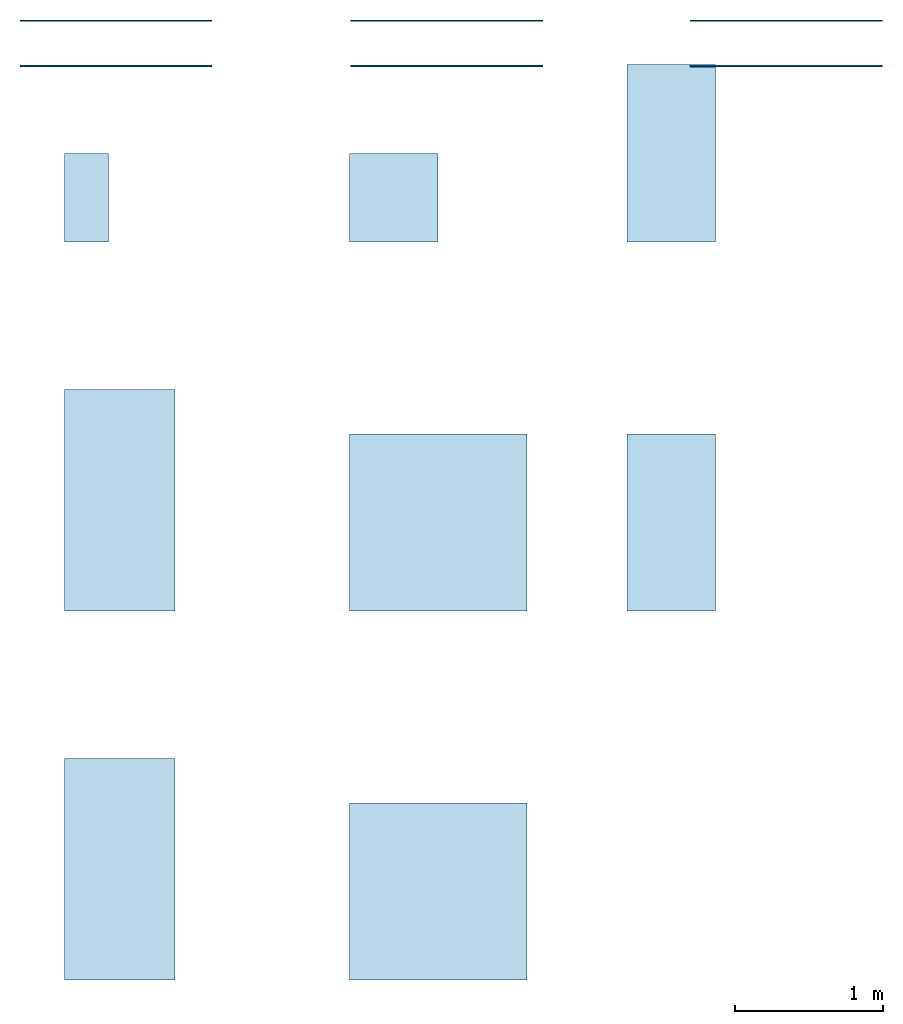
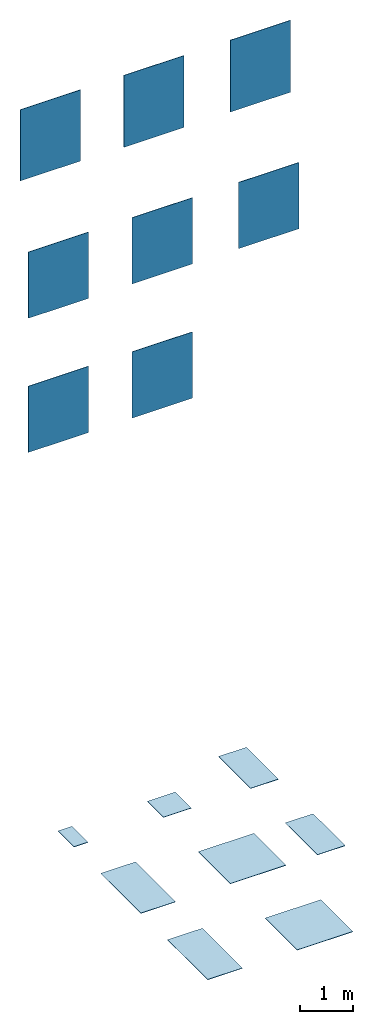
# One storey: 8 slabs, 8 walls.
"""IFC2X3 building model written with IfcOpenShell, lengths in millimetres."""

from ifc_helpers import new_model, entity, si_unit, converted_unit, derived_unit, direction, frame, frame_2d, origin, origin_2d_with_axis, place, context, subcontext, project, spatial, rectangle, extrude, material, layer, layer_set, layer_usage, type_object, element, save


model = new_model("IFC2X3")

# Units and contexts
model_context = context("Model", 3, precision=0.01, world=origin(), true_north=direction((6.123031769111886e-17, 1.0)))
body_context = subcontext(model_context, "Body", "Model", "MODEL_VIEW")
ifc_project = project(units=[si_unit("LENGTHUNIT", "METRE", prefix="MILLI"), si_unit("AREAUNIT", "SQUARE_METRE"), si_unit("VOLUMEUNIT", "CUBIC_METRE"), converted_unit("PLANEANGLEUNIT", "DEGREE", entity("IfcPlaneAngleMeasure", 0.017453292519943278), si_unit("PLANEANGLEUNIT", "RADIAN"), dimensions=[0, 0, 0, 0, 0, 0, 0]), si_unit("MASSUNIT", "GRAM", prefix="KILO"), derived_unit("MASSDENSITYUNIT", [(si_unit("MASSUNIT", "GRAM", prefix="KILO"), 1), (si_unit("LENGTHUNIT", "METRE"), -3)]), derived_unit("IONCONCENTRATIONUNIT", [(si_unit("MASSUNIT", "GRAM", prefix="KILO"), 1), (si_unit("LENGTHUNIT", "METRE"), -3)]), derived_unit("MOMENTOFINERTIAUNIT", [(si_unit("LENGTHUNIT", "METRE"), 4)]), si_unit("TIMEUNIT", "SECOND"), si_unit("FREQUENCYUNIT", "HERTZ"), si_unit("THERMODYNAMICTEMPERATUREUNIT", "DEGREE_CELSIUS"), derived_unit("THERMALTRANSMITTANCEUNIT", [(si_unit("MASSUNIT", "GRAM", prefix="KILO"), 1), (si_unit("THERMODYNAMICTEMPERATUREUNIT", "KELVIN"), -1), (si_unit("TIMEUNIT", "SECOND"), -3)]), derived_unit("THERMALCONDUCTANCEUNIT", [(si_unit("MASSUNIT", "GRAM", prefix="KILO"), 1), (si_unit("THERMODYNAMICTEMPERATUREUNIT", "KELVIN"), -1), (si_unit("TIMEUNIT", "SECOND"), -3), (si_unit("LENGTHUNIT", "METRE"), 1)]), derived_unit("VOLUMETRICFLOWRATEUNIT", [(si_unit("LENGTHUNIT", "METRE", prefix="DECI"), 3), (si_unit("TIMEUNIT", "SECOND"), -1)]), derived_unit("MASSFLOWRATEUNIT", [(si_unit("MASSUNIT", "GRAM", prefix="KILO"), 1), (si_unit("TIMEUNIT", "SECOND"), -1)]), derived_unit("ROTATIONALFREQUENCYUNIT", [(si_unit("TIMEUNIT", "SECOND"), -1)]), si_unit("ELECTRICCURRENTUNIT", "AMPERE"), si_unit("ELECTRICVOLTAGEUNIT", "VOLT"), si_unit("POWERUNIT", "WATT"), si_unit("FORCEUNIT", "NEWTON", prefix="KILO"), si_unit("ILLUMINANCEUNIT", "LUX"), si_unit("LUMINOUSFLUXUNIT", "LUMEN"), si_unit("LUMINOUSINTENSITYUNIT", "CANDELA"), si_unit("ENERGYUNIT", "JOULE"), derived_unit("USERDEFINED", [(si_unit("MASSUNIT", "GRAM", prefix="KILO"), -1), (si_unit("LENGTHUNIT", "METRE"), -2), (si_unit("TIMEUNIT", "SECOND"), 3), (si_unit("LUMINOUSFLUXUNIT", "LUMEN"), 1)]), derived_unit("USERDEFINED", [(si_unit("MASSUNIT", "GRAM", prefix="KILO"), 1), (si_unit("TIMEUNIT", "SECOND"), -3), (si_unit("LENGTHUNIT", "METRE"), 3), (si_unit("ELECTRICCURRENTUNIT", "AMPERE"), -2)]), derived_unit("SOUNDPOWERUNIT", [(si_unit("MASSUNIT", "GRAM", prefix="KILO"), 1), (si_unit("TIMEUNIT", "SECOND"), -3), (si_unit("LENGTHUNIT", "METRE"), 2)]), derived_unit("SOUNDPRESSUREUNIT", [(si_unit("MASSUNIT", "GRAM", prefix="KILO"), 1), (si_unit("LENGTHUNIT", "METRE"), -1), (si_unit("TIMEUNIT", "SECOND"), -2)]), derived_unit("LINEARVELOCITYUNIT", [(si_unit("LENGTHUNIT", "METRE"), 1), (si_unit("TIMEUNIT", "SECOND"), -1)]), si_unit("PRESSUREUNIT", "PASCAL"), derived_unit("USERDEFINED", [(si_unit("MASSUNIT", "GRAM", prefix="KILO"), 1), (si_unit("LENGTHUNIT", "METRE"), -2), (si_unit("TIMEUNIT", "SECOND"), -2)]), derived_unit("LINEARFORCEUNIT", [(si_unit("MASSUNIT", "GRAM", prefix="KILO"), 1), (si_unit("TIMEUNIT", "SECOND"), -2)]), derived_unit("PLANARFORCEUNIT", [(si_unit("MASSUNIT", "GRAM", prefix="KILO"), 1), (si_unit("LENGTHUNIT", "METRE"), -1), (si_unit("TIMEUNIT", "SECOND"), -2)]), derived_unit("SPECIFICHEATCAPACITYUNIT", [(si_unit("THERMODYNAMICTEMPERATUREUNIT", "KELVIN"), -1), (si_unit("LENGTHUNIT", "METRE"), 2), (si_unit("TIMEUNIT", "SECOND"), -2)]), derived_unit("HEATFLUXDENSITYUNIT", [(si_unit("MASSUNIT", "GRAM", prefix="KILO"), 1), (si_unit("TIMEUNIT", "SECOND"), -3)]), derived_unit("HEATINGVALUEUNIT", [(si_unit("LENGTHUNIT", "METRE"), 2), (si_unit("TIMEUNIT", "SECOND"), -2)]), derived_unit("VAPORPERMEABILITYUNIT", [(si_unit("LENGTHUNIT", "METRE"), -1), (si_unit("TIMEUNIT", "SECOND"), 1)]), derived_unit("DYNAMICVISCOSITYUNIT", [(si_unit("MASSUNIT", "GRAM", prefix="KILO"), 1), (si_unit("TIMEUNIT", "SECOND"), -1), (si_unit("LENGTHUNIT", "METRE"), -1)]), derived_unit("THERMALEXPANSIONCOEFFICIENTUNIT", [(si_unit("THERMODYNAMICTEMPERATUREUNIT", "KELVIN"), -1)]), derived_unit("MODULUSOFELASTICITYUNIT", [(si_unit("MASSUNIT", "GRAM", prefix="KILO"), 1), (si_unit("LENGTHUNIT", "METRE"), -1), (si_unit("TIMEUNIT", "SECOND"), -2)]), derived_unit("ISOTHERMALMOISTURECAPACITYUNIT", [(si_unit("MASSUNIT", "GRAM", prefix="KILO"), -1), (si_unit("LENGTHUNIT", "METRE"), 3)]), derived_unit("MOISTUREDIFFUSIVITYUNIT", [(si_unit("TIMEUNIT", "SECOND"), -1), (si_unit("LENGTHUNIT", "METRE"), 2)]), derived_unit("MASSPERLENGTHUNIT", [(si_unit("MASSUNIT", "GRAM", prefix="KILO"), 1), (si_unit("LENGTHUNIT", "METRE"), -1)]), derived_unit("THERMALRESISTANCEUNIT", [(si_unit("MASSUNIT", "GRAM", prefix="KILO"), -1), (si_unit("TIMEUNIT", "SECOND"), 3), (si_unit("THERMODYNAMICTEMPERATUREUNIT", "KELVIN"), 1)]), derived_unit("ACCELERATIONUNIT", [(si_unit("LENGTHUNIT", "METRE"), 1), (si_unit("TIMEUNIT", "SECOND"), -2)]), derived_unit("ANGULARVELOCITYUNIT", [(si_unit("TIMEUNIT", "SECOND"), -1), (si_unit("PLANEANGLEUNIT", "RADIAN"), 1)]), derived_unit("LINEARSTIFFNESSUNIT", [(si_unit("MASSUNIT", "GRAM", prefix="KILO"), 1), (si_unit("TIMEUNIT", "SECOND"), -2)]), derived_unit("WARPINGCONSTANTUNIT", [(si_unit("LENGTHUNIT", "METRE"), 6)]), derived_unit("LINEARMOMENTUNIT", [(si_unit("MASSUNIT", "GRAM", prefix="KILO"), 1), (si_unit("LENGTHUNIT", "METRE"), 1), (si_unit("TIMEUNIT", "SECOND"), -2)]), derived_unit("TORQUEUNIT", [(si_unit("MASSUNIT", "GRAM", prefix="KILO"), 1), (si_unit("LENGTHUNIT", "METRE"), 2), (si_unit("TIMEUNIT", "SECOND"), -2)])], contexts=[model_context])

# Site, building, storey
site_placement = place(None, origin())
site = spatial("IfcSite", under=ifc_project, at=site_placement, Name="Default", CompositionType="ELEMENT")
building_placement = place(site_placement, origin())
building = spatial("IfcBuilding", under=site, at=building_placement, CompositionType="ELEMENT")
storey_placement = place(building_placement, origin())
storey = spatial("IfcBuildingStorey", under=building, at=storey_placement, Name="Level 0", CompositionType="ELEMENT", Elevation=0.0)

# Slabs
ifc_material_1 = material(Name="Etherea-Grey-30x60 RJ90")
ifc_layer_1 = layer(ifc_material_1, 9.0)
ifc_material_2 = material(Name="<Unnamed>")
ifc_layer_2 = layer(ifc_material_2, 1.0)
ifc_layer_set_1 = layer_set([ifc_layer_1, ifc_layer_2], Name="Floor:Floor_Tiles_Refin-Etherea-Grey-30x60 RJ90")
ifc_layer_usage_1 = layer_usage(ifc_layer_set_1, "AXIS3", "POSITIVE", 0.0)
slab_type_1 = type_object("IfcSlabType", Name="Floor:Floor_Tiles_Refin-Etherea-Grey-30x60 RJ90", PredefinedType="FLOOR", material=ifc_layer_set_1)
slab_1_placement = place(storey_placement, origin())
element("IfcSlab", 1, at=slab_1_placement, inside=storey, type_object=slab_type_1, material=ifc_layer_usage_1, Name="Floor:Floor_Tiles_Refin-Etherea-Grey-30x60 RJ90", ObjectType="Floor:Floor_Tiles_Refin-Etherea-Grey-30x60 RJ90", PredefinedType="FLOOR", context=body_context, shape_type="SweptSolid", body=[
    extrude(rectangle(XDim=600.0, YDim=300.0, at=frame_2d((1.0800249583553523e-12, -5.400124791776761e-13), x_axis=(1.0, 0.0))), frame((6824.375206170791, 6939.462374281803, 0.0), z_axis=(0.0, 0.0, -1.0), x_axis=(0.0, 1.0, 0.0)), (0.0, 0.0, 1.0), 10.0),
])
ifc_material_3 = material(Name="Etherea-Grey-60x60 RJ85")
ifc_layer_3 = layer(ifc_material_3, 9.0)
ifc_layer_4 = layer(ifc_material_2, 1.0)
ifc_layer_set_2 = layer_set([ifc_layer_3, ifc_layer_4], Name="Floor:Floor_Tiles_Refin-Etherea-Grey-60x60 RJ85")
ifc_layer_usage_2 = layer_usage(ifc_layer_set_2, "AXIS3", "POSITIVE", 0.0)
slab_type_2 = type_object("IfcSlabType", Name="Floor:Floor_Tiles_Refin-Etherea-Grey-60x60 RJ85", PredefinedType="FLOOR", material=ifc_layer_set_2)
slab_2_placement = place(storey_placement, origin())
element("IfcSlab", 2, at=slab_2_placement, inside=storey, type_object=slab_type_2, material=ifc_layer_usage_2, Name="Floor:Floor_Tiles_Refin-Etherea-Grey-60x60 RJ85", ObjectType="Floor:Floor_Tiles_Refin-Etherea-Grey-60x60 RJ85", PredefinedType="FLOOR", context=body_context, shape_type="SweptSolid", body=[
    extrude(rectangle(XDim=600.0, YDim=600.0, at=frame_2d((0.0, -1.0800249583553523e-12), x_axis=(1.0, 0.0))), frame((8907.392405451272, 6939.462374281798, 0.0), z_axis=(0.0, 0.0, -1.0), x_axis=(0.0, 1.0, 0.0)), (0.0, 0.0, 1.0), 10.0),
])
ifc_material_4 = material(Name="Etherea-Grey-60x120 RJ71")
ifc_layer_5 = layer(ifc_material_4, 9.0)
ifc_layer_6 = layer(ifc_material_2, 1.0)
ifc_layer_set_3 = layer_set([ifc_layer_5, ifc_layer_6], Name="Floor:Floor_Tiles_Refin-Etherea-Grey-60x120 RJ71")
ifc_layer_usage_3 = layer_usage(ifc_layer_set_3, "AXIS3", "POSITIVE", 0.0)
slab_type_3 = type_object("IfcSlabType", Name="Floor:Floor_Tiles_Refin-Etherea-Grey-60x120 RJ71", PredefinedType="FLOOR", material=ifc_layer_set_3)
slab_3_placement = place(storey_placement, origin())
element("IfcSlab", 3, at=slab_3_placement, inside=storey, type_object=slab_type_3, material=ifc_layer_usage_3, Name="Floor:Floor_Tiles_Refin-Etherea-Grey-60x120 RJ71", ObjectType="Floor:Floor_Tiles_Refin-Etherea-Grey-60x120 RJ71", PredefinedType="FLOOR", context=body_context, shape_type="SweptSolid", body=[
    extrude(rectangle(XDim=1200.0, YDim=600.0, at=frame_2d((0.0, 1.0800249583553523e-12), x_axis=(1.0, 0.0))), frame((10787.18614186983, 7239.462374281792, 0.0), z_axis=(0.0, 0.0, -1.0), x_axis=(0.0, 1.0, 0.0)), (0.0, 0.0, 1.0), 10.0),
])
ifc_material_5 = material(Name="Etherea-Grey-75x150 RK14")
ifc_layer_7 = layer(ifc_material_5, 9.0)
ifc_layer_8 = layer(ifc_material_2, 1.0)
ifc_layer_set_4 = layer_set([ifc_layer_7, ifc_layer_8], Name="Floor:Floor_Tiles_Refin-Etherea-Grey-75x150 RK14")
ifc_layer_usage_4 = layer_usage(ifc_layer_set_4, "AXIS3", "POSITIVE", 0.0)
slab_type_4 = type_object("IfcSlabType", Name="Floor:Floor_Tiles_Refin-Etherea-Grey-75x150 RK14", PredefinedType="FLOOR", material=ifc_layer_set_4)
slab_4_placement = place(storey_placement, origin())
element("IfcSlab", 4, at=slab_4_placement, inside=storey, type_object=slab_type_4, material=ifc_layer_usage_4, Name="Floor:Floor_Tiles_Refin-Etherea-Grey-75x150 RK14", ObjectType="Floor:Floor_Tiles_Refin-Etherea-Grey-75x150 RK14", PredefinedType="FLOOR", context=body_context, shape_type="SweptSolid", body=[
    extrude(rectangle(XDim=1499.9999999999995, YDim=750.0000000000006, at=frame_2d((-2.2737367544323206e-13, -1.0800249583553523e-12), x_axis=(1.0, 0.0))), frame((7049.375206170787, 4889.462374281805, 0.0), z_axis=(0.0, 0.0, -1.0), x_axis=(0.0, 1.0, 0.0)), (0.0, 0.0, 1.0), 10.0),
])
ifc_material_6 = material(Name="Etherea-Grey-120x120 RJ58")
ifc_layer_9 = layer(ifc_material_6, 9.0)
ifc_layer_10 = layer(ifc_material_2, 1.0)
ifc_layer_set_5 = layer_set([ifc_layer_9, ifc_layer_10], Name="Floor:Floor_Tiles_Refin-Etherea-Grey-120x120 RJ58")
ifc_layer_usage_5 = layer_usage(ifc_layer_set_5, "AXIS3", "POSITIVE", 0.0)
slab_type_5 = type_object("IfcSlabType", Name="Floor:Floor_Tiles_Refin-Etherea-Grey-120x120 RJ58", PredefinedType="FLOOR", material=ifc_layer_set_5)
slab_5_placement = place(storey_placement, origin())
element("IfcSlab", 5, at=slab_5_placement, inside=storey, type_object=slab_type_5, material=ifc_layer_usage_5, Name="Floor:Floor_Tiles_Refin-Etherea-Grey-120x120 RJ58", ObjectType="Floor:Floor_Tiles_Refin-Etherea-Grey-120x120 RJ58", PredefinedType="FLOOR", context=body_context, shape_type="SweptSolid", body=[
    extrude(rectangle(XDim=1200.0000000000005, YDim=1200.0, at=frame_2d((-2.8421709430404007e-13, 0.0), x_axis=(1.0, 0.0))), frame((9207.392405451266, 4739.4623742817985, 0.0), z_axis=(0.0, 0.0, -1.0), x_axis=(0.0, 1.0, 0.0)), (0.0, 0.0, 1.0), 10.0),
])
ifc_material_7 = material(Name="Etherea-Grey-C2-GRIP-60x120 RN15")
ifc_layer_11 = layer(ifc_material_7, 9.0)
ifc_layer_12 = layer(ifc_material_2, 1.0)
ifc_layer_set_6 = layer_set([ifc_layer_11, ifc_layer_12], Name="Floor:Floor_Tiles_Refin-Etherea-Grey-C2-GRIP-60x120 RN15")
ifc_layer_usage_6 = layer_usage(ifc_layer_set_6, "AXIS3", "POSITIVE", 0.0)
slab_type_6 = type_object("IfcSlabType", Name="Floor:Floor_Tiles_Refin-Etherea-Grey-C2-GRIP-60x120 RN15", PredefinedType="FLOOR", material=ifc_layer_set_6)
slab_6_placement = place(storey_placement, origin())
element("IfcSlab", 6, at=slab_6_placement, inside=storey, type_object=slab_type_6, material=ifc_layer_usage_6, Name="Floor:Floor_Tiles_Refin-Etherea-Grey-C2-GRIP-60x120 RN15", ObjectType="Floor:Floor_Tiles_Refin-Etherea-Grey-C2-GRIP-60x120 RN15", PredefinedType="FLOOR", context=body_context, shape_type="SweptSolid", body=[
    extrude(rectangle(XDim=1199.9999999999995, YDim=600.0, at=frame_2d((2.2737367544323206e-13, 1.0800249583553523e-12), x_axis=(1.0, 0.0))), frame((10787.186141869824, 4739.462374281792, 0.0), z_axis=(0.0, 0.0, -1.0), x_axis=(0.0, 1.0, 0.0)), (0.0, 0.0, 1.0), 10.0),
])
ifc_material_8 = material(Name="Etherea-Grey-Lucido-75x150 RK19")
ifc_layer_13 = layer(ifc_material_8, 9.0)
ifc_layer_14 = layer(ifc_material_2, 1.0)
ifc_layer_set_7 = layer_set([ifc_layer_13, ifc_layer_14], Name="Floor:Floor_Tiles_Refin-Etherea-Grey-Lucido-75x150 RK19")
ifc_layer_usage_7 = layer_usage(ifc_layer_set_7, "AXIS3", "POSITIVE", 0.0)
slab_type_7 = type_object("IfcSlabType", Name="Floor:Floor_Tiles_Refin-Etherea-Grey-Lucido-75x150 RK19", PredefinedType="FLOOR", material=ifc_layer_set_7)
slab_7_placement = place(storey_placement, origin())
element("IfcSlab", 7, at=slab_7_placement, inside=storey, type_object=slab_type_7, material=ifc_layer_usage_7, Name="Floor:Floor_Tiles_Refin-Etherea-Grey-Lucido-75x150 RK19", ObjectType="Floor:Floor_Tiles_Refin-Etherea-Grey-Lucido-75x150 RK19", PredefinedType="FLOOR", context=body_context, shape_type="SweptSolid", body=[
    extrude(rectangle(XDim=1499.9999999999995, YDim=750.0000000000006, at=frame_2d((0.0, 1.0800249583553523e-12), x_axis=(1.0, 0.0))), frame((7049.375206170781, 2389.462374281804, 0.0), z_axis=(0.0, 0.0, -1.0), x_axis=(0.0, 1.0, 0.0)), (0.0, 0.0, 1.0), 10.0),
])
ifc_material_9 = material(Name="Etherea-Grey-Lucido-120x120 RJ62")
ifc_layer_15 = layer(ifc_material_9, 9.0)
ifc_layer_16 = layer(ifc_material_2, 1.0)
ifc_layer_set_8 = layer_set([ifc_layer_15, ifc_layer_16], Name="Floor:Floor_Tiles_Refin-Etherea-Grey-Lucido-120x120 RJ62")
ifc_layer_usage_8 = layer_usage(ifc_layer_set_8, "AXIS3", "POSITIVE", 0.0)
slab_type_8 = type_object("IfcSlabType", Name="Floor:Floor_Tiles_Refin-Etherea-Grey-Lucido-120x120 RJ62", PredefinedType="FLOOR", material=ifc_layer_set_8)
slab_8_placement = place(storey_placement, origin())
element("IfcSlab", 8, at=slab_8_placement, inside=storey, type_object=slab_type_8, material=ifc_layer_usage_8, Name="Floor:Floor_Tiles_Refin-Etherea-Grey-Lucido-120x120 RJ62", ObjectType="Floor:Floor_Tiles_Refin-Etherea-Grey-Lucido-120x120 RJ62", PredefinedType="FLOOR", context=body_context, shape_type="SweptSolid", body=[
    extrude(rectangle(XDim=1200.0000000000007, YDim=1200.0, at=origin_2d_with_axis()), frame((9207.39240545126, 2239.462374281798, 0.0), z_axis=(0.0, 0.0, -1.0), x_axis=(0.0, 1.0, 0.0)), (0.0, 0.0, 1.0), 10.0),
])

# Walls
ifc_layer_17 = layer(ifc_material_2, 1.0)
ifc_layer_18 = layer(ifc_material_3, 9.0)
ifc_layer_set_9 = layer_set([ifc_layer_17, ifc_layer_18], Name="Basic Wall:Wall_Tiles_Refin-Etherea-Grey-60x60 RJ85")
ifc_layer_usage_9 = layer_usage(ifc_layer_set_9, "AXIS2", "NEGATIVE", 5.000000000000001)
wall_type_1 = type_object("IfcWallType", Name="Basic Wall:Wall_Tiles_Refin-Etherea-Grey-60x60 RJ85", PredefinedType="STANDARD", material=ifc_layer_set_9)
wall_1_placement = place(storey_placement, frame((8614.375206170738, 8137.38386313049, 14387.677044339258)))
element("IfcWallStandardCase", 9, at=wall_1_placement, inside=storey, type_object=wall_type_1, material=ifc_layer_usage_9, Name="Basic Wall:Wall_Tiles_Refin-Etherea-Grey-60x60 RJ85", ObjectType="Basic Wall:Wall_Tiles_Refin-Etherea-Grey-60x60 RJ85", context=body_context, shape_type="SweptSolid", body=[
    extrude(rectangle(XDim=1300.0, YDim=9.999999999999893, at=frame_2d((650.0, 7.638334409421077e-14), x_axis=(-1.0, 0.0))), origin(), (0.0, 0.0, 1.0), 1641.7417352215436),
])
ifc_layer_19 = layer(ifc_material_2, 1.0)
ifc_layer_20 = layer(ifc_material_4, 9.0)
ifc_layer_set_10 = layer_set([ifc_layer_19, ifc_layer_20], Name="Basic Wall:Wall_Tiles_Refin-Etherea-Grey-60x120 RJ71")
ifc_layer_usage_10 = layer_usage(ifc_layer_set_10, "AXIS2", "NEGATIVE", 5.000000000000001)
wall_type_2 = type_object("IfcWallType", Name="Basic Wall:Wall_Tiles_Refin-Etherea-Grey-60x120 RJ71", PredefinedType="STANDARD", material=ifc_layer_set_10)
wall_2_placement = place(storey_placement, frame((10914.37520617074, 8137.383863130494, 14387.677044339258)))
element("IfcWallStandardCase", 10, at=wall_2_placement, inside=storey, type_object=wall_type_2, material=ifc_layer_usage_10, Name="Basic Wall:Wall_Tiles_Refin-Etherea-Grey-60x120 RJ71", ObjectType="Basic Wall:Wall_Tiles_Refin-Etherea-Grey-60x120 RJ71", context=body_context, shape_type="SweptSolid", body=[
    extrude(rectangle(XDim=1299.999999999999, YDim=9.999999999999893, at=frame_2d((649.9999999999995, 7.638334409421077e-14), x_axis=(-1.0, 0.0))), origin(), (0.0, 0.0, 1.0), 1641.7417352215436),
])
ifc_layer_21 = layer(ifc_material_2, 1.0)
ifc_layer_22 = layer(ifc_material_1, 9.0)
ifc_layer_set_11 = layer_set([ifc_layer_21, ifc_layer_22], Name="Basic Wall:Wall_Tiles_Refin-Etherea-Grey-30x60 RJ90")
ifc_layer_usage_11 = layer_usage(ifc_layer_set_11, "AXIS2", "NEGATIVE", 5.000000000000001)
wall_type_3 = type_object("IfcWallType", Name="Basic Wall:Wall_Tiles_Refin-Etherea-Grey-30x60 RJ90", PredefinedType="STANDARD", material=ifc_layer_set_11)
wall_3_placement = place(storey_placement, frame((6374.375206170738, 8137.383863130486, 14403.726734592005)))
element("IfcWallStandardCase", 11, at=wall_3_placement, inside=storey, type_object=wall_type_3, material=ifc_layer_usage_11, Name="Basic Wall:Wall_Tiles_Refin-Etherea-Grey-30x60 RJ90", ObjectType="Basic Wall:Wall_Tiles_Refin-Etherea-Grey-30x60 RJ90", context=body_context, shape_type="SweptSolid", body=[
    extrude(rectangle(XDim=1300.0, YDim=9.999999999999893, at=frame_2d((650.0, 7.638334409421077e-14), x_axis=(-1.0, 0.0))), origin(), (0.0, 0.0, 1.0), 1625.692044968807),
])
ifc_layer_23 = layer(ifc_material_2, 1.0)
ifc_layer_24 = layer(ifc_material_5, 9.0)
ifc_layer_set_12 = layer_set([ifc_layer_23, ifc_layer_24], Name="Basic Wall:Wall_Tiles_Refin-Etherea-Grey-75x150 RK14")
ifc_layer_usage_12 = layer_usage(ifc_layer_set_12, "AXIS2", "NEGATIVE", 5.000000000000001)
wall_type_4 = type_object("IfcWallType", Name="Basic Wall:Wall_Tiles_Refin-Etherea-Grey-75x150 RK14", PredefinedType="STANDARD", material=ifc_layer_set_12)
wall_4_placement = place(storey_placement, frame((6374.375206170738, 7832.383863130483, 11452.543626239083)))
element("IfcWallStandardCase", 12, at=wall_4_placement, inside=storey, type_object=wall_type_4, material=ifc_layer_usage_12, Name="Basic Wall:Wall_Tiles_Refin-Etherea-Grey-75x150 RK14", ObjectType="Basic Wall:Wall_Tiles_Refin-Etherea-Grey-75x150 RK14", context=body_context, shape_type="SweptSolid", body=[
    extrude(rectangle(XDim=1300.0, YDim=9.999999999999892, at=frame_2d((650.0, 0.0), x_axis=(-1.0, 0.0))), origin(), (0.0, 0.0, 1.0), 1513.1985565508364),
])
ifc_layer_25 = layer(ifc_material_2, 1.0)
ifc_layer_26 = layer(ifc_material_6, 9.0)
ifc_layer_set_13 = layer_set([ifc_layer_25, ifc_layer_26], Name="Basic Wall:Wall_Tiles_Refin-Etherea-Grey-120x120 RJ58")
ifc_layer_usage_13 = layer_usage(ifc_layer_set_13, "AXIS2", "NEGATIVE", 5.000000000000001)
wall_type_5 = type_object("IfcWallType", Name="Basic Wall:Wall_Tiles_Refin-Etherea-Grey-120x120 RJ58", PredefinedType="STANDARD", material=ifc_layer_set_13)
wall_5_placement = place(storey_placement, frame((8614.375206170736, 7832.383863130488, 11452.543626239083)))
element("IfcWallStandardCase", 13, at=wall_5_placement, inside=storey, type_object=wall_type_5, material=ifc_layer_usage_13, Name="Basic Wall:Wall_Tiles_Refin-Etherea-Grey-120x120 RJ58", ObjectType="Basic Wall:Wall_Tiles_Refin-Etherea-Grey-120x120 RJ58", context=body_context, shape_type="SweptSolid", body=[
    extrude(rectangle(XDim=1300.0000000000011, YDim=9.999999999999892, at=frame_2d((650.0000000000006, 0.0), x_axis=(-1.0, 0.0))), origin(), (0.0, 0.0, 1.0), 1513.1985565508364),
])
ifc_layer_27 = layer(ifc_material_2, 1.0)
ifc_layer_28 = layer(ifc_material_7, 9.0)
ifc_layer_set_14 = layer_set([ifc_layer_27, ifc_layer_28], Name="Basic Wall:Wall_Tiles_Refin-Etherea-Grey-C2-GRIP-60x120 RN15")
ifc_layer_usage_14 = layer_usage(ifc_layer_set_14, "AXIS2", "NEGATIVE", 5.000000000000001)
wall_type_6 = type_object("IfcWallType", Name="Basic Wall:Wall_Tiles_Refin-Etherea-Grey-C2-GRIP-60x120 RN15", PredefinedType="STANDARD", material=ifc_layer_set_14)
wall_6_placement = place(storey_placement, frame((10914.375206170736, 7832.383863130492, 11452.543626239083)))
element("IfcWallStandardCase", 14, at=wall_6_placement, inside=storey, type_object=wall_type_6, material=ifc_layer_usage_14, Name="Basic Wall:Wall_Tiles_Refin-Etherea-Grey-C2-GRIP-60x120 RN15", ObjectType="Basic Wall:Wall_Tiles_Refin-Etherea-Grey-C2-GRIP-60x120 RN15", context=body_context, shape_type="SweptSolid", body=[
    extrude(rectangle(XDim=1299.999999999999, YDim=9.999999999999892, at=frame_2d((649.9999999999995, 0.0), x_axis=(-1.0, 0.0))), origin(), (0.0, 0.0, 1.0), 1513.1985565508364),
])
ifc_layer_29 = layer(ifc_material_2, 1.0)
ifc_layer_30 = layer(ifc_material_8, 9.0)
ifc_layer_set_15 = layer_set([ifc_layer_29, ifc_layer_30], Name="Basic Wall:Wall_Tiles_Refin-Etherea-Grey-Lucido-75x150 RK19")
ifc_layer_usage_15 = layer_usage(ifc_layer_set_15, "AXIS2", "NEGATIVE", 5.000000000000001)
wall_type_7 = type_object("IfcWallType", Name="Basic Wall:Wall_Tiles_Refin-Etherea-Grey-Lucido-75x150 RK19", PredefinedType="STANDARD", material=ifc_layer_set_15)
wall_7_placement = place(storey_placement, frame((6374.3752061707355, 7832.383863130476, 8388.867029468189)))
element("IfcWallStandardCase", 15, at=wall_7_placement, inside=storey, type_object=wall_type_7, material=ifc_layer_usage_15, Name="Basic Wall:Wall_Tiles_Refin-Etherea-Grey-Lucido-75x150 RK19", ObjectType="Basic Wall:Wall_Tiles_Refin-Etherea-Grey-Lucido-75x150 RK19", context=body_context, shape_type="SweptSolid", body=[
    extrude(rectangle(XDim=1300.0000000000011, YDim=9.999999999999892, at=frame_2d((650.0000000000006, 0.0), x_axis=(-1.0, 0.0))), origin(), (0.0, 0.0, 1.0), 1513.1985565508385),
])
ifc_layer_31 = layer(ifc_material_2, 1.0)
ifc_layer_32 = layer(ifc_material_9, 9.0)
ifc_layer_set_16 = layer_set([ifc_layer_31, ifc_layer_32], Name="Basic Wall:Wall_Tiles_Refin-Etherea-Grey-Lucido-120x120 RJ62")
ifc_layer_usage_16 = layer_usage(ifc_layer_set_16, "AXIS2", "NEGATIVE", 5.000000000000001)
wall_type_8 = type_object("IfcWallType", Name="Basic Wall:Wall_Tiles_Refin-Etherea-Grey-Lucido-120x120 RJ62", PredefinedType="STANDARD", material=ifc_layer_set_16)
wall_8_placement = place(storey_placement, frame((8614.375206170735, 7832.38386313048, 8388.867029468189)))
element("IfcWallStandardCase", 16, at=wall_8_placement, inside=storey, type_object=wall_type_8, material=ifc_layer_usage_16, Name="Basic Wall:Wall_Tiles_Refin-Etherea-Grey-Lucido-120x120 RJ62", ObjectType="Basic Wall:Wall_Tiles_Refin-Etherea-Grey-Lucido-120x120 RJ62", context=body_context, shape_type="SweptSolid", body=[
    extrude(rectangle(XDim=1300.0000000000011, YDim=9.999999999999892, at=frame_2d((650.0000000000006, 0.0), x_axis=(-1.0, 0.0))), origin(), (0.0, 0.0, 1.0), 1513.1985565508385),
])

save(model, "model.ifc")
